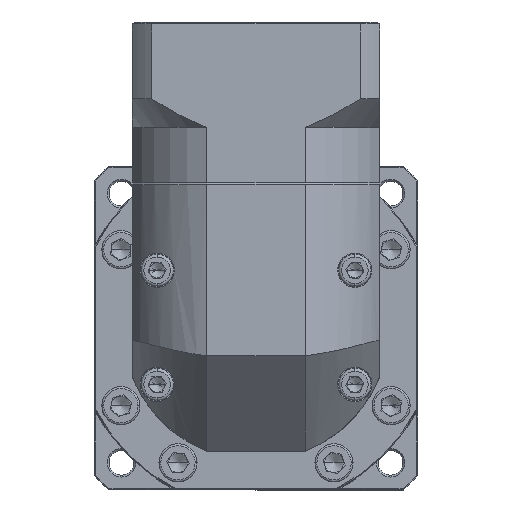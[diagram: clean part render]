
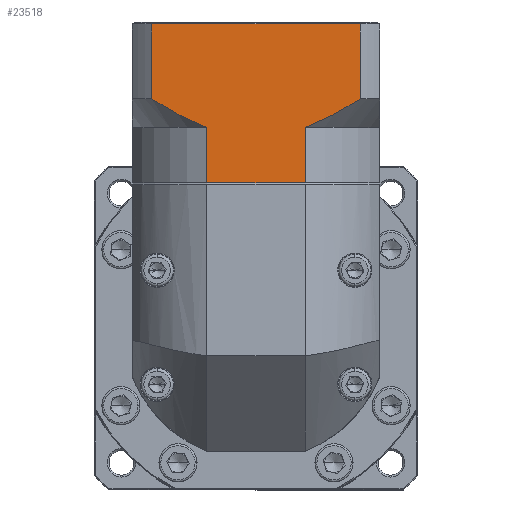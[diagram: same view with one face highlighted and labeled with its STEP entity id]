
A CAD part, top view. The second image highlights one B-rep face of the part: STEP entity #23518.
In plain terms, the highlighted planar face has unit normal (0, 0, 1).
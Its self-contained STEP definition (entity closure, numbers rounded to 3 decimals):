
#586 = VERTEX_POINT ( 'NONE', #26420 ) ;
#1970 = ORIENTED_EDGE ( 'NONE', *, *, #34120, .T. ) ;
#3176 = EDGE_CURVE ( 'NONE', #7775, #586, #100409, .T. ) ;
#5685 = DIRECTION ( 'NONE',  ( 0., 1., 0. ) ) ;
#6785 = CARTESIAN_POINT ( 'NONE',  ( -74.797, 127.388, 22.63 ) ) ;
#7033 = CARTESIAN_POINT ( 'NONE',  ( -29.307, 100.188, 22.63 ) ) ;
#7346 = VERTEX_POINT ( 'NONE', #8610 ) ;
#7450 = CARTESIAN_POINT ( 'NONE',  ( -69.683, 100.188, 22.63 ) ) ;
#7775 = VERTEX_POINT ( 'NONE', #128622 ) ;
#8610 = CARTESIAN_POINT ( 'NONE',  ( -55.287, 100.188, 22.63 ) ) ;
#10205 = CARTESIAN_POINT ( 'NONE',  ( -26.764, 101.205, 22.63 ) ) ;
#10758 = CARTESIAN_POINT ( 'NONE',  ( -74.797, 127.888, 22.63 ) ) ;
#11004 = B_SPLINE_CURVE_WITH_KNOTS ( 'NONE', 3,
 ( #49961, #20111, #71472, #10205, #60250, #92176, #61563, #71012, #30427, #121848 ),
 .UNSPECIFIED., .F., .F.,
 ( 4, 2, 2, 2, 4 ),
 ( 0.101, 0.103, 0.105, 0.109, 0.117 ),
 .UNSPECIFIED. ) ;
#12300 = VERTEX_POINT ( 'NONE', #133276 ) ;
#18357 = VERTEX_POINT ( 'NONE', #32567 ) ;
#19129 = VERTEX_POINT ( 'NONE', #26078 ) ;
#19729 = EDGE_CURVE ( 'NONE', #18357, #12300, #72097, .T. ) ;
#20111 = CARTESIAN_POINT ( 'NONE',  ( -28.665, 100.426, 22.63 ) ) ;
#20981 = DIRECTION ( 'NONE',  ( 1., 0., 0. ) ) ;
#23518 = ADVANCED_FACE ( 'NONE', ( #74031 ), #72476, .F. ) ;
#26078 = CARTESIAN_POINT ( 'NONE',  ( -69.683, 107.688, 22.63 ) ) ;
#26420 = CARTESIAN_POINT ( 'NONE',  ( -69.683, 127.388, 22.63 ) ) ;
#30427 = CARTESIAN_POINT ( 'NONE',  ( -17.179, 106.226, 22.63 ) ) ;
#32567 = CARTESIAN_POINT ( 'NONE',  ( -29.307, 100.188, 22.63 ) ) ;
#34120 = EDGE_CURVE ( 'NONE', #18357, #94935, #11004, .T. ) ;
#34751 = VERTEX_POINT ( 'NONE', #90355 ) ;
#35895 = VECTOR ( 'NONE', #5685, 1000. ) ;
#37110 = ORIENTED_EDGE ( 'NONE', *, *, #98165, .F. ) ;
#37726 = CARTESIAN_POINT ( 'NONE',  ( -55.287, 100.188, 22.63 ) ) ;
#38255 = ORIENTED_EDGE ( 'NONE', *, *, #104091, .T. ) ;
#38827 = CARTESIAN_POINT ( 'NONE',  ( -63.873, 104.185, 22.63 ) ) ;
#38896 = EDGE_LOOP ( 'NONE', ( #37110, #78422, #118888, #112699, #109549, #38255, #132717, #1970 ) ) ;
#48854 = CARTESIAN_POINT ( 'NONE',  ( -69.683, 107.688, 22.63 ) ) ;
#49961 = CARTESIAN_POINT ( 'NONE',  ( -29.307, 100.188, 22.63 ) ) ;
#53548 = LINE ( 'NONE', #97528, #125919 ) ;
#55087 = VECTOR ( 'NONE', #67431, 1000. ) ;
#57672 = VECTOR ( 'NONE', #109622, 1000. ) ;
#58229 = CARTESIAN_POINT ( 'NONE',  ( -55.287, 100.188, 22.63 ) ) ;
#59558 = CARTESIAN_POINT ( 'NONE',  ( -57.825, 101.13, 22.63 ) ) ;
#60250 = CARTESIAN_POINT ( 'NONE',  ( -26.14, 101.478, 22.63 ) ) ;
#61563 = CARTESIAN_POINT ( 'NONE',  ( -23.074, 102.934, 22.63 ) ) ;
#67152 = CARTESIAN_POINT ( 'NONE',  ( -14.911, 107.688, 22.63 ) ) ;
#67431 = DIRECTION ( 'NONE',  ( 0., 1., 0. ) ) ;
#68193 = B_SPLINE_CURVE_WITH_KNOTS ( 'NONE', 3,
 ( #48854, #109978, #120252, #90129, #38827, #131960, #59558, #58229 ),
 .UNSPECIFIED., .F., .F.,
 ( 4, 2, 2, 4 ),
 ( 0.058, 0.062, 0.066, 0.074 ),
 .UNSPECIFIED. ) ;
#68930 = VECTOR ( 'NONE', #20981, 1000. ) ;
#69312 = DIRECTION ( 'NONE',  ( -1., 0., 0. ) ) ;
#71012 = CARTESIAN_POINT ( 'NONE',  ( -19.493, 104.839, 22.63 ) ) ;
#71472 = CARTESIAN_POINT ( 'NONE',  ( -28.026, 100.679, 22.63 ) ) ;
#72033 = DIRECTION ( 'NONE',  ( 0., 0., -1. ) ) ;
#72097 = LINE ( 'NONE', #7033, #57672 ) ;
#72476 = PLANE ( 'NONE',  #96228 ) ;
#74031 = FACE_OUTER_BOUND ( 'NONE', #38896, .T. ) ;
#74753 = VECTOR ( 'NONE', #69312, 1000. ) ;
#78422 = ORIENTED_EDGE ( 'NONE', *, *, #3176, .T. ) ;
#83961 = CARTESIAN_POINT ( 'NONE',  ( -74.797, 85.688, 22.63 ) ) ;
#90129 = CARTESIAN_POINT ( 'NONE',  ( -65.059, 104.855, 22.63 ) ) ;
#90355 = CARTESIAN_POINT ( 'NONE',  ( -55.287, 85.688, 22.63 ) ) ;
#92176 = CARTESIAN_POINT ( 'NONE',  ( -24.286, 102.329, 22.63 ) ) ;
#94935 = VERTEX_POINT ( 'NONE', #67152 ) ;
#96228 = AXIS2_PLACEMENT_3D ( 'NONE', #10758, #72033, #114801 ) ;
#96281 = LINE ( 'NONE', #83961, #68930 ) ;
#97528 = CARTESIAN_POINT ( 'NONE',  ( -14.911, 100.188, 22.63 ) ) ;
#98165 = EDGE_CURVE ( 'NONE', #7775, #94935, #53548, .T. ) ;
#100409 = LINE ( 'NONE', #6785, #74753 ) ;
#104091 = EDGE_CURVE ( 'NONE', #34751, #12300, #96281, .T. ) ;
#106552 = LINE ( 'NONE', #37726, #55087 ) ;
#108510 = EDGE_CURVE ( 'NONE', #34751, #7346, #106552, .T. ) ;
#109549 = ORIENTED_EDGE ( 'NONE', *, *, #108510, .F. ) ;
#109622 = DIRECTION ( 'NONE',  ( 0., -1., 0. ) ) ;
#109978 = CARTESIAN_POINT ( 'NONE',  ( -68.545, 106.955, 22.63 ) ) ;
#110663 = EDGE_CURVE ( 'NONE', #19129, #586, #130959, .T. ) ;
#112699 = ORIENTED_EDGE ( 'NONE', *, *, #118323, .T. ) ;
#114801 = DIRECTION ( 'NONE',  ( 0., 1., 0. ) ) ;
#118223 = DIRECTION ( 'NONE',  ( 0., -1., 0. ) ) ;
#118323 = EDGE_CURVE ( 'NONE', #19129, #7346, #68193, .T. ) ;
#118888 = ORIENTED_EDGE ( 'NONE', *, *, #110663, .F. ) ;
#120252 = CARTESIAN_POINT ( 'NONE',  ( -67.394, 106.239, 22.63 ) ) ;
#121848 = CARTESIAN_POINT ( 'NONE',  ( -14.911, 107.688, 22.63 ) ) ;
#125919 = VECTOR ( 'NONE', #118223, 1000. ) ;
#128622 = CARTESIAN_POINT ( 'NONE',  ( -14.911, 127.388, 22.63 ) ) ;
#130959 = LINE ( 'NONE', #7450, #35895 ) ;
#131960 = CARTESIAN_POINT ( 'NONE',  ( -60.277, 102.275, 22.63 ) ) ;
#132717 = ORIENTED_EDGE ( 'NONE', *, *, #19729, .F. ) ;
#133276 = CARTESIAN_POINT ( 'NONE',  ( -29.307, 85.688, 22.63 ) ) ;
